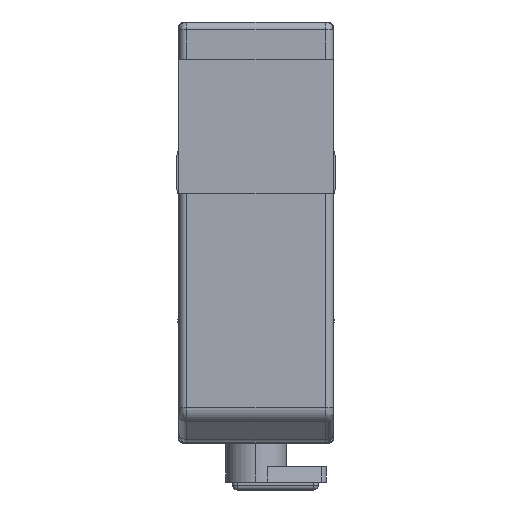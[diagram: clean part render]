
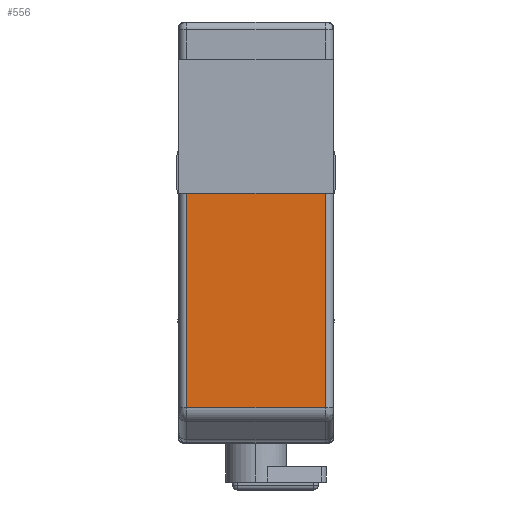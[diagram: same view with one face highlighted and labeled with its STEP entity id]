
A CAD part, top view. The second image highlights one B-rep face of the part: STEP entity #556.
In plain terms, the highlighted planar face has unit normal (0, 0, 1).
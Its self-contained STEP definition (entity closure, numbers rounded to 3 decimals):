
#556=ADVANCED_FACE('',(#3206),#3205,.F.);
#3205=PLANE('',#5150);
#3206=FACE_OUTER_BOUND('',#5151,.T.);
#5147=CARTESIAN_POINT('',(5.34,-26.133,27.4));
#5148=DIRECTION('',(0.,0.,-1.));
#5149=DIRECTION('',(-1.,0.,0.));
#5150=AXIS2_PLACEMENT_3D('',#5147,#5148,#5149);
#5151=EDGE_LOOP('',(#6775,#6776,#6777,#6778));
#6775=ORIENTED_EDGE('',*,*,#7495,.F.);
#6776=ORIENTED_EDGE('',*,*,#7552,.T.);
#6777=ORIENTED_EDGE('',*,*,#7640,.T.);
#6778=ORIENTED_EDGE('',*,*,#7575,.T.);
#7495=EDGE_CURVE('',#11281,#11288,#11289,.T.);
#7552=EDGE_CURVE('',#11281,#11670,#11677,.T.);
#7575=EDGE_CURVE('',#11808,#11288,#11827,.T.);
#7640=EDGE_CURVE('',#11670,#11808,#12253,.T.);
#11281=VERTEX_POINT('',#14878);
#11288=VERTEX_POINT('',#14883);
#11289=LINE('',#14884,#14885);
#11670=VERTEX_POINT('',#15122);
#11677=LINE('',#15127,#15128);
#11808=VERTEX_POINT('',#15210);
#11827=LINE('',#15223,#15224);
#12253=LINE('',#15468,#15469);
#14878=CARTESIAN_POINT('',(-4.45,-11.,27.4));
#14883=CARTESIAN_POINT('',(4.45,-11.,27.4));
#14884=CARTESIAN_POINT('',(-4.45,-11.,27.4));
#14885=VECTOR('',#14886,8.9);
#14886=DIRECTION('',(1.,0.,0.));
#15122=CARTESIAN_POINT('',(-4.45,-24.758,27.4));
#15127=CARTESIAN_POINT('',(-4.45,-11.,27.4));
#15128=VECTOR('',#15129,13.758);
#15129=DIRECTION('',(0.,-1.,0.));
#15210=CARTESIAN_POINT('',(4.45,-24.758,27.4));
#15223=CARTESIAN_POINT('',(4.45,-24.758,27.4));
#15224=VECTOR('',#15225,13.758);
#15225=DIRECTION('',(0.,1.,0.));
#15468=CARTESIAN_POINT('',(-4.45,-24.758,27.4));
#15469=VECTOR('',#15470,8.9);
#15470=DIRECTION('',(1.,0.,0.));
